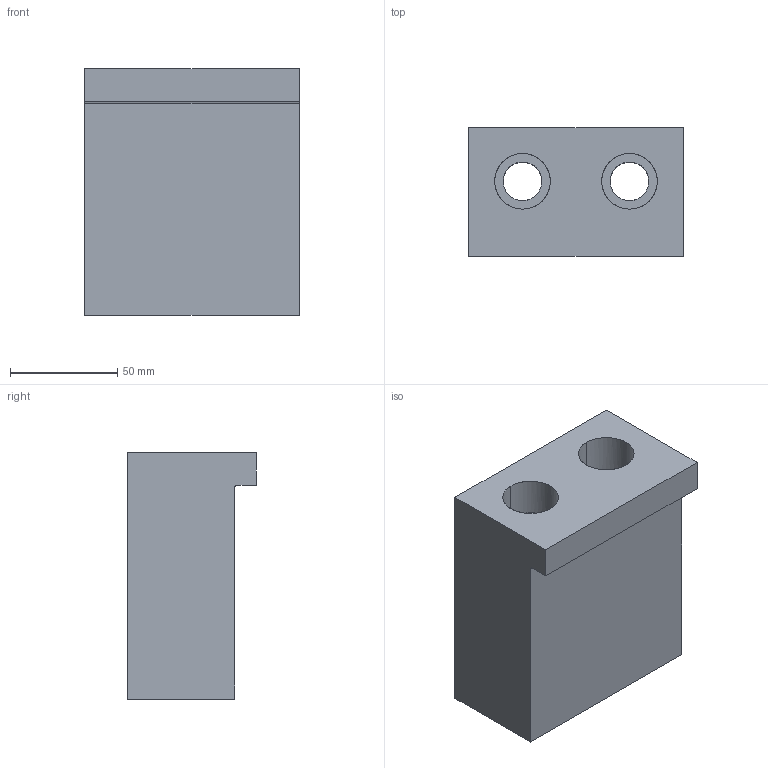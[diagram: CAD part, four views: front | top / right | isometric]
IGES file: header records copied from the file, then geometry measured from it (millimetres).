
Global section: file name: E:\UnigraphicsGraphicData\MISUMI_PRESS-PARTS\IGES\3d_bse100-100_01323_r00.igs; native system: NX V5.0; preprocessor: UGS NX IGES V5.0; author: MISUMI; date: 20110105.160140; units: millimetre
Bounding box: 100 x 60 x 115 mm (x, y, z)
Surface area: 59647.2 mm2 (no closed solid volume)
Topology: 0 solids, 0 shells, 19 faces, 174 edges, 174 vertices
Faces by surface type: bspline 19
